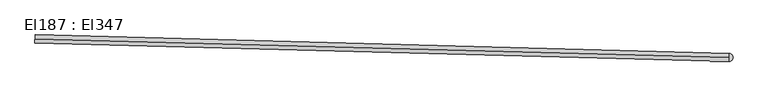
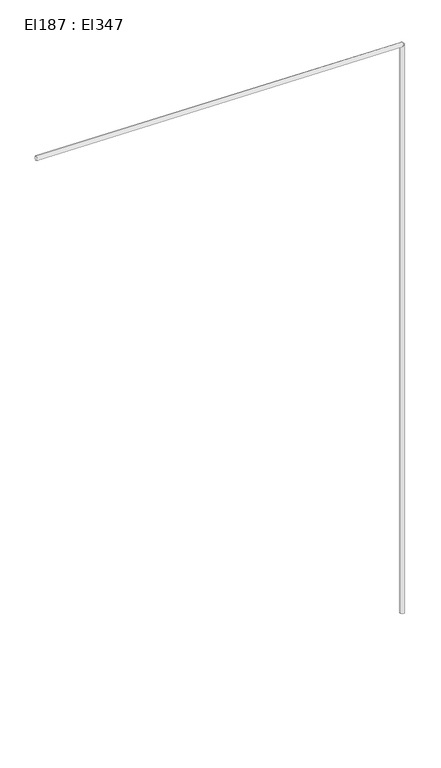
"""IFC4 building model written with IfcOpenShell, lengths in millimetres: cable carrier segment geometry, El187 : El347."""

from ifc_helpers import new_model, si_unit, point, frame, frame_2d, origin, place, context, project, spatial, circle_curve, trimmed, segment, composite_curve, outline, extrude, source, transform, mapped, element, save


def el187_el347_bbfb40ad(model_context):
    return source(origin(), model_context, "Body", "SweptSolid", [
        extrude(outline(composite_curve([segment(trimmed(circle_curve(frame_2d((11714.4986511, 3485.5667745)), 9.5), [point((11704.9986511, 3485.5667745))], [point((11723.9986511, 3485.5667745))], False, "CARTESIAN"), True, "CONTINUOUS"), segment(trimmed(circle_curve(frame_2d((11714.4986511, 3485.5667745)), 9.5), [point((11723.9986511, 3485.5667745))], [point((11704.9986511, 3485.5667745))], False, "CARTESIAN"), True, "CONTINUOUS")], self_intersect=False)), frame((0.0, 0.0, 1830.0), z_axis=(0.0, 0.0, 1.0), x_axis=(1.0, 0.0, 0.0)), (0.0, 0.0, 1.0), 2620.0),
        extrude(outline(composite_curve([segment(trimmed(circle_curve(frame_2d((0.0, -9.5)), 9.5), [point((0.0, -19.0))], [point((0.0, 0.0))], False, "CARTESIAN"), True, "CONTINUOUS"), segment(trimmed(circle_curve(frame_2d((0.0, -9.5)), 9.5), [point((0.0, 0.0))], [point((0.0, -19.0))], False, "CARTESIAN"), True, "CONTINUOUS")], self_intersect=False)), frame((11714.4974838, 3485.5668796, 4459.5), z_axis=(-0.9996391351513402, 0.026862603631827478, 0.0), x_axis=(-0.026862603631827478, -0.9996391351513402, 0.0)), (0.0, 0.0, 1.0), 1574.46),
    ])


if __name__ == "__main__":
    model = new_model("IFC4")
    model_context = context("Model", 3, world=origin())
    ifc_project = project(units=[si_unit("LENGTHUNIT", "METRE", prefix="MILLI")], contexts=[model_context])
    site = spatial("IfcSite", under=ifc_project)
    building = spatial("IfcBuilding", under=site)
    placement = place(None, origin())
    el187_el347_shape = el187_el347_bbfb40ad(model_context)
    element("IfcCableCarrierSegment", 1, ObjectType="El187 : El347", at=placement, inside=building, context=model_context, shape_type="MappedRepresentation", body=[
        mapped(el187_el347_shape, transform((0.0, 0.0, 0.0), x_axis=(1.0, 0.0, 0.0), y_axis=(0.0, 1.0, 0.0), z_axis=(0.0, 0.0, 1.0))),
    ])
    save(model, "model.ifc")
